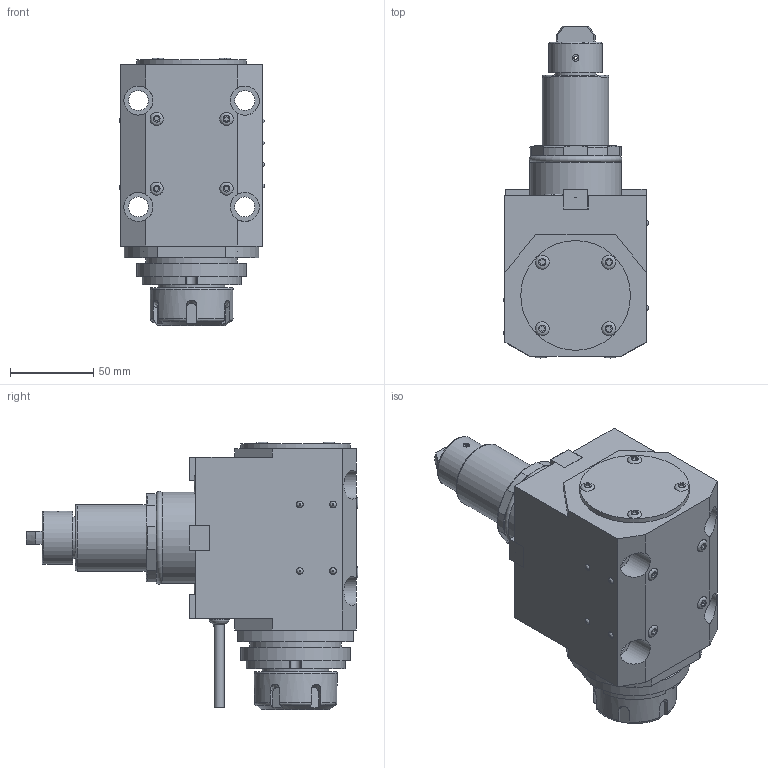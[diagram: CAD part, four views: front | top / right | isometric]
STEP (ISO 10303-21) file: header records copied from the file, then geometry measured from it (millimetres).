
FILE_DESCRIPTION(/* description */ (''),/* implementation_level */ '2;1');
FILE_NAME(/* name */ 'BMT55-90-60-ER32.stp',/* time_stamp */ '2024-12-17T17:36:03+03:00',/* author */ ('OborotistovI'),/* organization */ (''),/* preprocessor_version */ 'ST-DEVELOPER v19.2',/* originating_system */ 'Autodesk Inventor 2024',/* authorisation */ '');
FILE_SCHEMA (('AUTOMOTIVE_DESIGN { 1 0 10303 214 3 1 1 }'));
Length unit declared in the file: millimetre
Products named in the file (3): BMT45-90-60 ER25; BMT45-90-60 ER25_1; Крепление
Assembly tree (2 placements, depth 2):
  BMT45-90-60 ER25
    BMT45-90-60 ER25_1
    Крепление
Bounding box: 87.5 x 199.7 x 161 mm (x, y, z)
Volume: 1053166.7 mm3; surface area: 113861.9 mm2
Topology: 2 solids, 2 shells, 537 faces, 1332 edges, 881 vertices
Faces by surface type: plane 340, cylinder 86, bspline 64, cone 23, torus 20, sphere 4
Full cylindrical faces by diameter (mm): 2 x1, 3.8 x4, 4 x6, 6 x1, 6.5 x4, 7 x3, 7.5 x4, 8 x4, 9 x4, 12 x4, 17.5 x4, 24.13 x1, 25 x1, 32 x2, 32.5 x1, 39 x2, 40 x2, 50 x1, 55 x2, 66 x2
Entity records: 17403 total; most frequent: CARTESIAN_POINT 4244, ORIENTED_EDGE 2656, DIRECTION 2426, EDGE_CURVE 1328, VERTEX_POINT 881, LINE 870, VECTOR 870, AXIS2_PLACEMENT_3D 778
